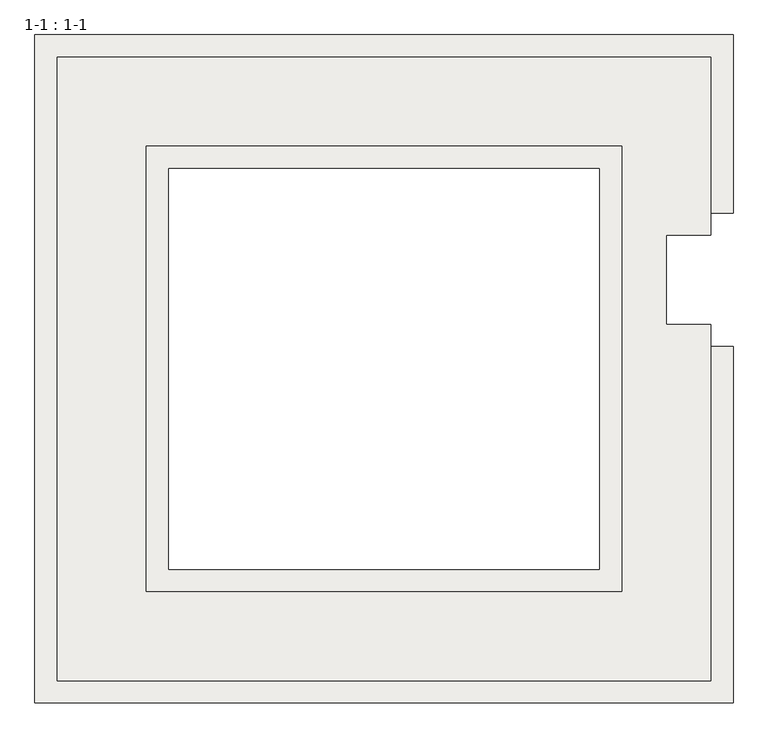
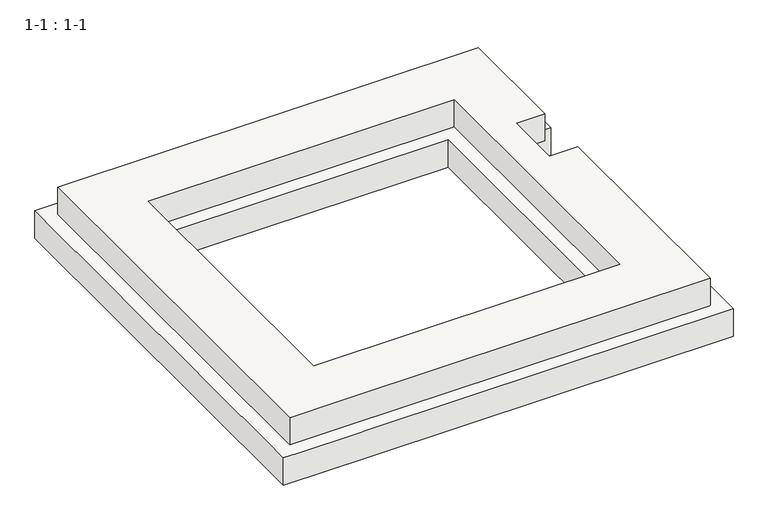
"""IFC4 building model written with IfcOpenShell, lengths in millimetres: slab geometry, 1-1 : 1-1."""

from ifc_helpers import new_model, si_unit, origin, place, context, project, spatial, faceted_brep, source, transform, mapped, element, save


def slab_1_1_1_1_8aeb816e(model_context):
    return source(origin(), model_context, "Body", "Brep", [
        faceted_brep([(-13828.0662967, 1095.6780218, -900.0), (-13828.0662967, 1095.6780218, -1200.0), (-13828.0662967, -1604.3219782, -1200.0), (-13828.0662967, -1604.3219782, -900.0), (-13678.0662967, 1245.6780218, -600.0), (-13678.0662967, 1245.6780218, -900.0), (-13678.0662967, -1754.3219782, -900.0), (-13678.0662967, -1754.3219782, -600.0), (-13078.0662967, 1845.6780218, -900.0), (-13078.0662967, 1845.6780218, -600.0), (-13078.0662967, 645.6780218, -600.0), (-13078.0662967, 645.6780218, -900.0), (-13078.0662967, 795.6780218, -900.0), (-12928.0662967, 1995.6780218, -1200.0), (-12928.0662967, 1995.6780218, -900.0), (-12928.0662967, 795.6780218, -900.0), (-12928.0662967, 795.6780218, -1200.0), (-16728.0662967, -1604.3219782, -1200.0), (-16728.0662967, -1604.3219782, -900.0), (-16878.0662967, -1754.3219782, -900.0), (-16878.0662967, -1754.3219782, -600.0), (-13078.0662967, -2354.3219782, -900.0), (-13078.0662967, -2354.3219782, -600.0), (-16878.0662967, -2354.3219782, -600.0), (-17478.0662967, -2354.3219782, -600.0), (-17478.0662967, -2354.3219782, -900.0), (-16878.0662967, -2354.3219782, -900.0), (-12928.0662967, -2504.3219782, -1200.0), (-12928.0662967, -2504.3219782, -900.0), (-16728.0662967, -2504.3219782, -900.0), (-16878.0662967, -2504.3219782, -900.0), (-17478.0662967, -2504.3219782, -900.0), (-17628.0662967, -2504.3219782, -900.0), (-17628.0662967, -2504.3219782, -1200.0), (-16728.0662967, -2504.3219782, -1200.0), (-16728.0662967, 1095.6780218, -1200.0), (-16728.0662967, 1095.6780218, -900.0), (-16878.0662967, 1245.6780218, -900.0), (-16878.0662967, 1245.6780218, -600.0), (-17478.0662967, 1845.6780218, -600.0), (-17478.0662967, 1845.6780218, -900.0), (-17628.0662967, 1995.6780218, -900.0), (-17628.0662967, 1995.6780218, -1200.0), (-13378.0662967, 795.6780218, -1200.0), (-13378.0662967, -104.3219782, -1200.0), (-12928.0662967, -104.3219782, -1200.0), (-13078.0662967, 45.6780218, -600.0), (-13378.0662967, 45.6780218, -600.0), (-13378.0662967, 645.6780218, -600.0), (-12928.0662967, -104.3219782, -900.0), (-13078.0662967, -104.3219782, -900.0), (-13078.0662967, 45.6780218, -900.0), (-13378.0662967, -104.3219782, -900.0), (-13378.0662967, 795.6780218, -900.0), (-13378.0662967, 645.6780218, -900.0), (-13378.0662967, 45.6780218, -900.0)], [[[0, 1, 2, 3]], [[4, 5, 6, 7]], [[8, 9, 10, 11, 12]], [[13, 14, 15, 16]], [[3, 2, 17, 18]], [[7, 6, 19, 20]], [[21, 22, 23, 24, 25, 26]], [[27, 28, 29, 30, 31, 32, 33, 34]], [[18, 17, 35, 36]], [[20, 19, 37, 38]], [[25, 24, 39, 40]], [[33, 32, 41, 42]], [[27, 34, 33, 42, 13, 16, 43, 44, 45], [2, 1, 35, 17]], [[1, 0, 36, 35]], [[6, 5, 37, 19], [0, 3, 18, 36]], [[5, 4, 38, 37]], [[24, 23, 22, 46, 47, 48, 10, 9, 39], [4, 7, 20, 38]], [[9, 8, 40, 39]], [[21, 26, 25, 40, 8, 12, 15, 14, 41, 32, 31, 30, 29, 28, 49, 50]], [[14, 13, 42, 41]], [[22, 21, 50, 51, 46]], [[28, 27, 45, 49]], [[52, 44, 43, 53, 54, 48, 47, 55]], [[53, 43, 16, 15, 12]], [[54, 53, 12, 11]], [[48, 54, 11, 10]], [[55, 47, 46, 51]], [[52, 55, 51, 50]], [[44, 52, 50, 49, 45]]]),
    ])


if __name__ == "__main__":
    model = new_model("IFC4")
    model_context = context("Model", 3, world=origin())
    ifc_project = project(units=[si_unit("LENGTHUNIT", "METRE", prefix="MILLI")], contexts=[model_context])
    site = spatial("IfcSite", under=ifc_project)
    building = spatial("IfcBuilding", under=site)
    placement = place(None, origin())
    slab_1_1_1_1_shape = slab_1_1_1_1_8aeb816e(model_context)
    element("IfcSlab", 1, ObjectType="1-1 : 1-1", at=placement, inside=building, context=model_context, shape_type="MappedRepresentation", body=[
        mapped(slab_1_1_1_1_shape, transform((0.0, 0.0, 0.0), x_axis=(1.0, 0.0, 0.0), y_axis=(0.0, 1.0, 0.0), z_axis=(0.0, 0.0, 1.0))),
    ])
    save(model, "model.ifc")
